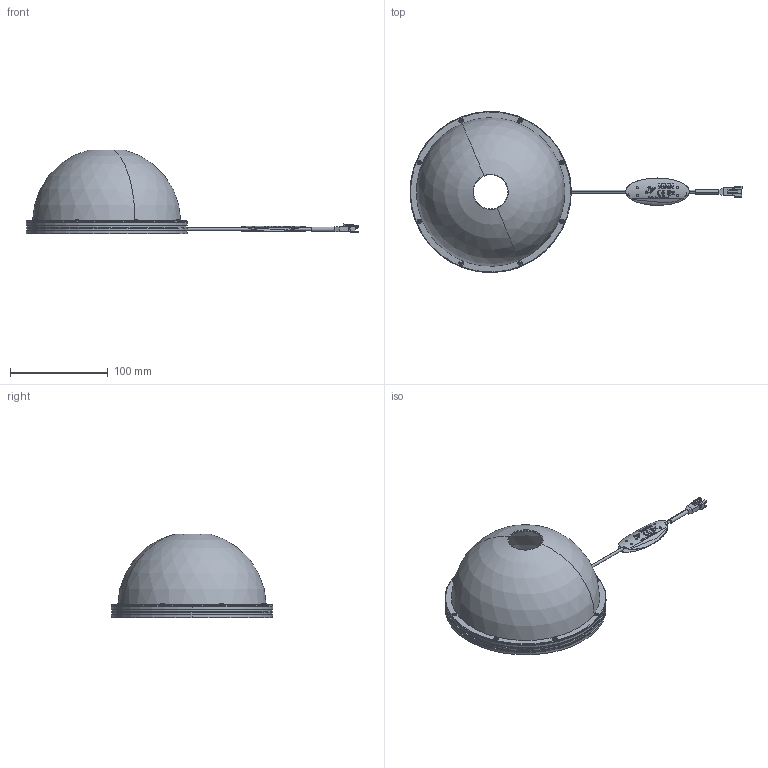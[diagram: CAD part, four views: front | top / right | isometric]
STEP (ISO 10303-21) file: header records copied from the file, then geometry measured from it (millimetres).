
FILE_DESCRIPTION(('STEP AP214'),'1');
FILE_NAME('VDO-165_DRAWING_3D.step','2023-09-12T10:32:23',(' '),(' '),'Spatial InterOp 3D',' ',' ');
FILE_SCHEMA(('AUTOMOTIVE_DESIGN { 1 0 10303 214 1 1 1 1 }'));
Length unit declared in the file: millimetre
Products named in the file (10): 3P; CABEL TAG (VS); REFLECTOR; BASE_165; DOME; R7M-1; INSULOK; OFA249A; MXB4949
Assembly tree (23 placements, depth 2):
  (unnamed)
    3P
    CABEL TAG (VS)
    REFLECTOR
    BASE_165
    DOME
    R7M-1
    INSULOK
    OFA249A  x8
    MXB4949  x8
Bounding box: 339.75 x 165 x 85.96 mm (x, y, z)
Volume: 157478.7 mm3; surface area: 145204 mm2
Topology: 48 solids, 49 shells, 940 faces, 2571 edges, 1761 vertices
Faces by surface type: plane 433, cylinder 361, cone 52, sphere 52, torus 36, bspline 6
Entity records: 26308 total; most frequent: CARTESIAN_POINT 5830, ORIENTED_EDGE 3394, DIRECTION 3051, EDGE_CURVE 1697, VERTEX_POINT 1215, AXIS2_PLACEMENT_3D 1098, LINE 855, VECTOR 855
